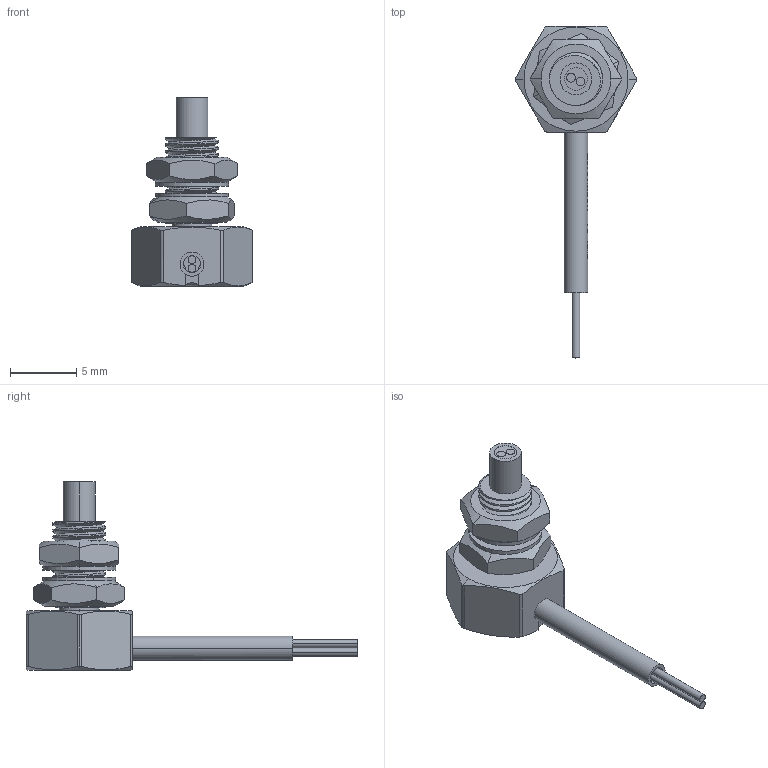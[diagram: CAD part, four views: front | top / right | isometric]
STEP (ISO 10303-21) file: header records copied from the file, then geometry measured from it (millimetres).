
FILE_DESCRIPTION (( 'STEP AP203' ), '1' );
FILE_NAME ('PD-42TZ.STEP', '2016-06-30T01:37:14', ( '' ), ( '' ), 'SwSTEP 2.0', 'SolidWorks 2013', '' );
FILE_SCHEMA (( 'CONFIG_CONTROL_DESIGN' ));
Length unit declared in the file: millimetre
Products named in the file (1): PD-42TZ
Bounding box: 9.14 x 25 x 14.2 mm (x, y, z)
Volume: 438.7 mm3; surface area: 824.3 mm2
Topology: 3 solids, 3 shells, 376 faces, 995 edges, 638 vertices
Faces by surface type: plane 205, cylinder 92, cone 53, bspline 23, torus 3
Entity records: 14318 total; most frequent: CARTESIAN_POINT 5258, ORIENTED_EDGE 1986, DIRECTION 1750, EDGE_CURVE 993, VERTEX_POINT 638, AXIS2_PLACEMENT_3D 594, VECTOR 562, LINE 562
